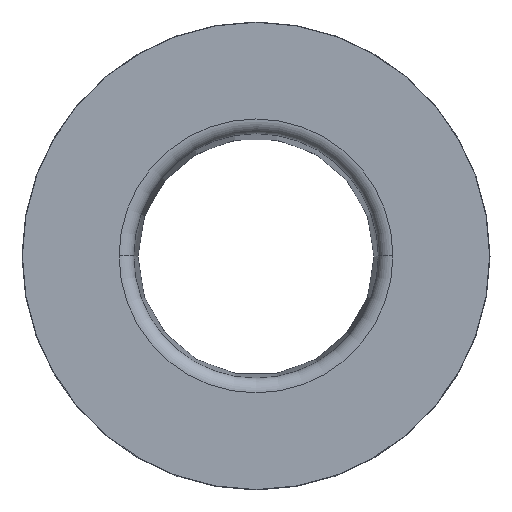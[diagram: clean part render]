
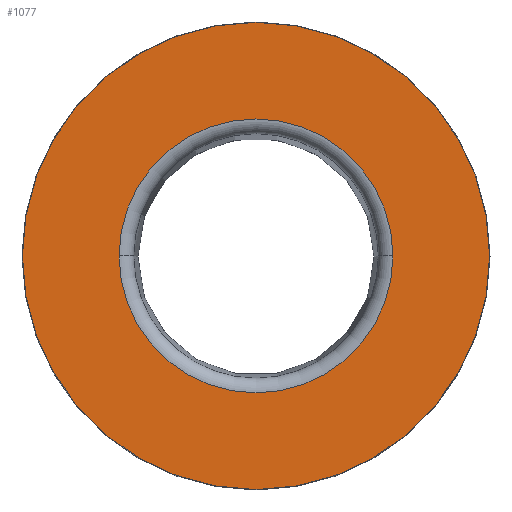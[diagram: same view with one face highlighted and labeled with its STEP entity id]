
A CAD part, top view. The second image highlights one B-rep face of the part: STEP entity #1077.
In plain terms, the highlighted planar face has unit normal (0, 0, 1).
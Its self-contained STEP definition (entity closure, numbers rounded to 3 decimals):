
#6 = EDGE_CURVE ( 'NONE', #669, #483, #1028, .T. ) ;
#39 = CARTESIAN_POINT ( 'NONE',  ( 0., 0., 17. ) ) ;
#76 = PLANE ( 'NONE',  #331 ) ;
#92 = CARTESIAN_POINT ( 'NONE',  ( 0., 0., 17. ) ) ;
#133 = DIRECTION ( 'NONE',  ( 1., 0., 0. ) ) ;
#231 = CIRCLE ( 'NONE', #959, 7.987 ) ;
#255 = CARTESIAN_POINT ( 'NONE',  ( 0., 0., 17. ) ) ;
#264 = EDGE_LOOP ( 'NONE', ( #1180, #665 ) ) ;
#275 = DIRECTION ( 'NONE',  ( 1., 0., 0. ) ) ;
#289 = CARTESIAN_POINT ( 'NONE',  ( 0., 0., 17. ) ) ;
#331 = AXIS2_PLACEMENT_3D ( 'NONE', #289, #795, #275 ) ;
#353 = DIRECTION ( 'NONE',  ( 1., 0., 0. ) ) ;
#355 = DIRECTION ( 'NONE',  ( 0., 0., 1. ) ) ;
#394 = FACE_BOUND ( 'NONE', #264, .T. ) ;
#483 = VERTEX_POINT ( 'NONE', #597 ) ;
#538 = AXIS2_PLACEMENT_3D ( 'NONE', #39, #716, #133 ) ;
#549 = DIRECTION ( 'NONE',  ( 0., 0., -1. ) ) ;
#588 = VERTEX_POINT ( 'NONE', #644 ) ;
#597 = CARTESIAN_POINT ( 'NONE',  ( 7.987, 0., 17. ) ) ;
#636 = CIRCLE ( 'NONE', #1030, 4.683 ) ;
#644 = CARTESIAN_POINT ( 'NONE',  ( -4.683, 0., 17. ) ) ;
#665 = ORIENTED_EDGE ( 'NONE', *, *, #1213, .T. ) ;
#669 = VERTEX_POINT ( 'NONE', #1286 ) ;
#716 = DIRECTION ( 'NONE',  ( 0., 0., -1. ) ) ;
#767 = AXIS2_PLACEMENT_3D ( 'NONE', #1263, #355, #852 ) ;
#788 = EDGE_LOOP ( 'NONE', ( #987, #918 ) ) ;
#795 = DIRECTION ( 'NONE',  ( 0., 0., 1. ) ) ;
#852 = DIRECTION ( 'NONE',  ( 1., 0., 0. ) ) ;
#875 = DIRECTION ( 'NONE',  ( 0., 0., 1. ) ) ;
#918 = ORIENTED_EDGE ( 'NONE', *, *, #6, .T. ) ;
#959 = AXIS2_PLACEMENT_3D ( 'NONE', #92, #875, #1098 ) ;
#973 = EDGE_CURVE ( 'NONE', #1238, #588, #636, .T. ) ;
#987 = ORIENTED_EDGE ( 'NONE', *, *, #1026, .T. ) ;
#1026 = EDGE_CURVE ( 'NONE', #483, #669, #231, .T. ) ;
#1028 = CIRCLE ( 'NONE', #767, 7.987 ) ;
#1030 = AXIS2_PLACEMENT_3D ( 'NONE', #255, #549, #353 ) ;
#1077 = ADVANCED_FACE ( 'NONE', ( #394, #1188 ), #76, .T. ) ;
#1098 = DIRECTION ( 'NONE',  ( 1., 0., 0. ) ) ;
#1180 = ORIENTED_EDGE ( 'NONE', *, *, #973, .T. ) ;
#1188 = FACE_OUTER_BOUND ( 'NONE', #788, .T. ) ;
#1213 = EDGE_CURVE ( 'NONE', #588, #1238, #1280, .T. ) ;
#1235 = CARTESIAN_POINT ( 'NONE',  ( 4.683, 0., 17. ) ) ;
#1238 = VERTEX_POINT ( 'NONE', #1235 ) ;
#1263 = CARTESIAN_POINT ( 'NONE',  ( 0., 0., 17. ) ) ;
#1280 = CIRCLE ( 'NONE', #538, 4.683 ) ;
#1286 = CARTESIAN_POINT ( 'NONE',  ( -7.987, 0., 17. ) ) ;
